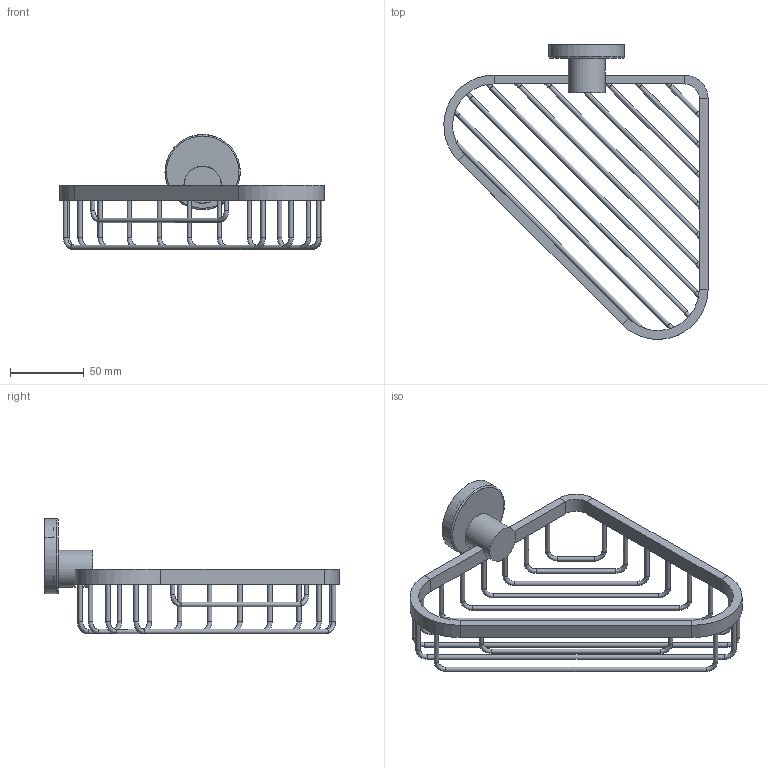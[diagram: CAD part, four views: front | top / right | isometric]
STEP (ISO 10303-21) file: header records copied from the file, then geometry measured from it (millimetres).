
FILE_DESCRIPTION(/* description */ (''),/* implementation_level */ '2;1');
FILE_NAME(/* name */ '4111123',/* time_stamp */ '2019-08-26T09:20:55+08:00',/* author */ (''),/* organization */ (''),/* preprocessor_version */ 'ST-DEVELOPER v9',/* originating_system */ 'UGS - NX 4.0',/* authorisation */ '');
FILE_SCHEMA (('CONFIG_CONTROL_DESIGN'));
Length unit declared in the file: millimetre
Products named in the file (1): w335DEEtk3b
Bounding box: 178.85 x 199.35 x 77.89 mm (x, y, z)
Volume: 66984.5 mm3; surface area: 54123.1 mm2
Topology: 3 solids, 3 shells, 141 faces, 311 edges, 177 vertices
Faces by surface type: cylinder 58, plane 55, torus 24, cone 4
Full cylindrical faces by diameter (mm): 3 x34, 7.2 x1, 20.8 x1, 25 x1, 25.3 x1, 50 x1, 51 x1
Entity records: 3560 total; most frequent: DIRECTION 648, CARTESIAN_POINT 550, ORIENTED_EDGE 476, AXIS2_PLACEMENT_3D 268, EDGE_LOOP 242, EDGE_CURVE 238, VERTEX_POINT 170, FACE_BOUND 165
